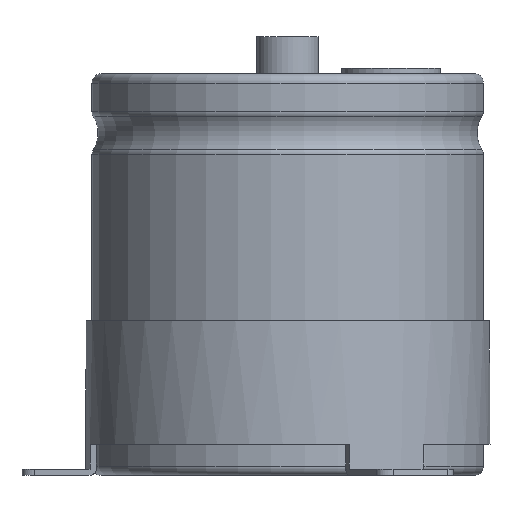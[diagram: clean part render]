
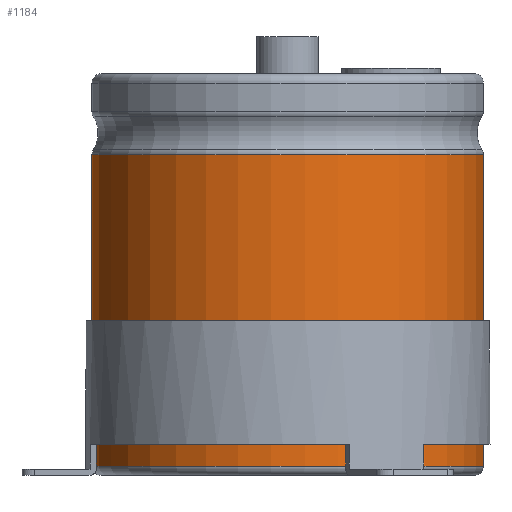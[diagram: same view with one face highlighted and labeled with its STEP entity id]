
A CAD part, front view. The second image highlights one B-rep face of the part: STEP entity #1184.
In plain terms, the highlighted cylindrical face has radius 31.75 mm (diameter 63.5 mm), a partial arc.
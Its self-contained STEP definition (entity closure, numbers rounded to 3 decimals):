
#689=CYLINDRICAL_SURFACE('',#4528,31.75);
#755=LINE('',#6368,#969);
#756=LINE('',#6372,#970);
#969=VECTOR('',#5074,1.);
#970=VECTOR('',#5077,1.);
#1184=ADVANCED_FACE('',(#1492),#689,.T.);
#1492=FACE_OUTER_BOUND('',#1695,.T.);
#1695=EDGE_LOOP('',(#2015,#2016,#2017,#2018));
#2015=ORIENTED_EDGE('',*,*,#3636,.T.);
#2016=ORIENTED_EDGE('',*,*,#3637,.T.);
#2017=ORIENTED_EDGE('',*,*,#3638,.F.);
#2018=ORIENTED_EDGE('',*,*,#3639,.F.);
#3226=VERTEX_POINT('',#6361);
#3228=VERTEX_POINT('',#6365);
#3229=VERTEX_POINT('',#6369);
#3230=VERTEX_POINT('',#6371);
#3636=EDGE_CURVE('',#3226,#3228,#4243,.T.);
#3637=EDGE_CURVE('',#3228,#3229,#755,.T.);
#3638=EDGE_CURVE('',#3230,#3229,#4244,.T.);
#3639=EDGE_CURVE('',#3226,#3230,#756,.T.);
#4243=CIRCLE('',#4525,31.75);
#4244=CIRCLE('',#4527,31.75);
#4525=AXIS2_PLACEMENT_3D('',#6366,#5070,#5071);
#4527=AXIS2_PLACEMENT_3D('',#6370,#5075,#5076);
#4528=AXIS2_PLACEMENT_3D('',#6373,#5078,#5079);
#5070=DIRECTION('',(0.,0.,-1.));
#5071=DIRECTION('',(0.,1.,0.));
#5074=DIRECTION('',(0.,0.,-1.));
#5075=DIRECTION('',(0.,0.,-1.));
#5076=DIRECTION('',(0.,1.,0.));
#5077=DIRECTION('',(0.,0.,-1.));
#5078=DIRECTION('',(0.,0.,-1.));
#5079=DIRECTION('',(0.,1.,0.));
#6361=CARTESIAN_POINT('',(4.007,31.496,51.9));
#6365=CARTESIAN_POINT('',(-4.007,31.496,51.9));
#6366=CARTESIAN_POINT('',(0.,0.,51.9));
#6368=CARTESIAN_POINT('',(-4.007,31.496,51.9));
#6369=CARTESIAN_POINT('',(-4.007,31.496,1.5));
#6370=CARTESIAN_POINT('',(0.,0.,1.5));
#6371=CARTESIAN_POINT('',(4.007,31.496,1.5));
#6372=CARTESIAN_POINT('',(4.007,31.496,51.9));
#6373=CARTESIAN_POINT('',(0.,0.,0.));
